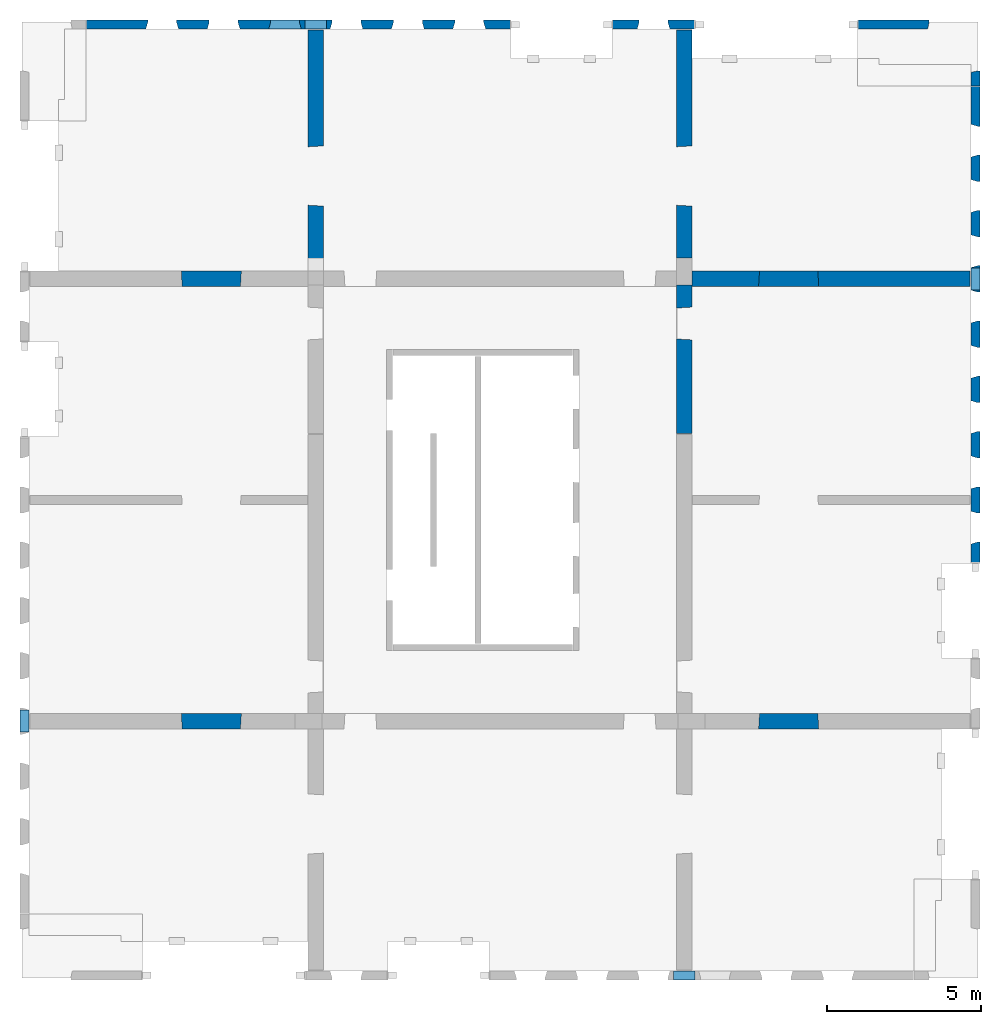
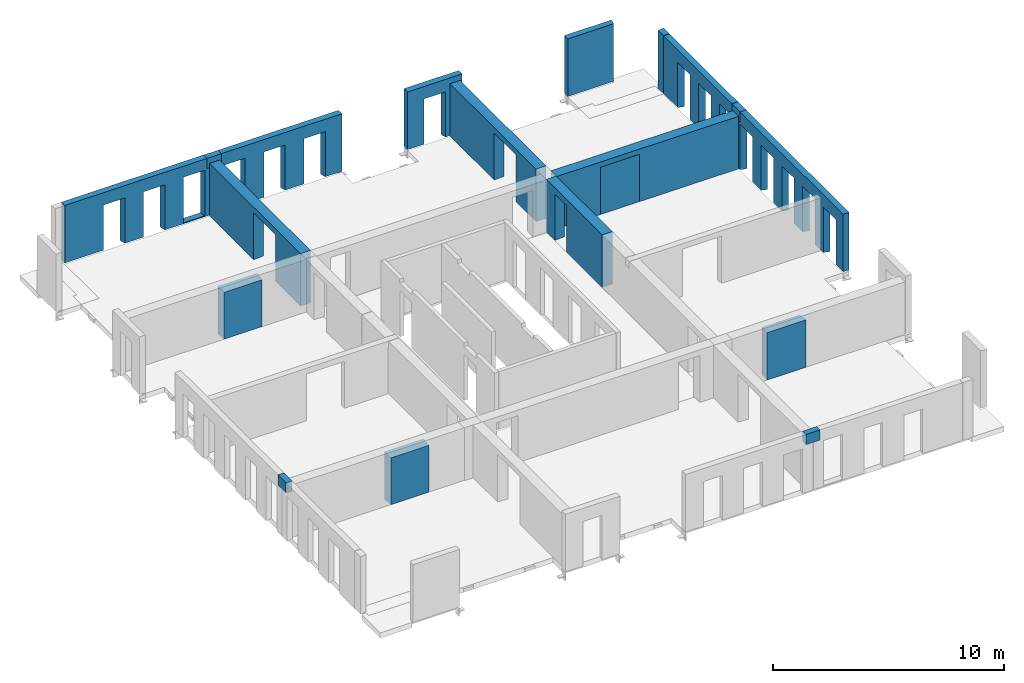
# One storey, part 4 of 4: 19 walls, 25 openings.
"""IFC2X3 building model written with IfcOpenShell, lengths in millimetres."""

from ifc_helpers import new_model, entity, si_unit, converted_unit, derived_unit, direction, frame, frame_2d, origin, place, context, subcontext, project, spatial, rectangle, extrude, faceted_brep, material, layer, layer_set, layer_usage, type_object, element, save


model = new_model("IFC2X3")

# Units and contexts
model_context = context("Model", 3, precision=0.01, world=origin(), true_north=direction((6.12303176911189e-17, 1.0)))
body_context = subcontext(model_context, "Body", "Model", "MODEL_VIEW")
ifc_project = project(units=[si_unit("LENGTHUNIT", "METRE", prefix="MILLI"), si_unit("AREAUNIT", "SQUARE_METRE"), si_unit("VOLUMEUNIT", "CUBIC_METRE"), converted_unit("PLANEANGLEUNIT", "DEGREE", entity("IfcRatioMeasure", 0.0174532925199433), si_unit("PLANEANGLEUNIT", "RADIAN"), dimensions=[0, 0, 0, 0, 0, 0, 0]), si_unit("MASSUNIT", "GRAM", prefix="KILO"), derived_unit("MASSDENSITYUNIT", [(si_unit("MASSUNIT", "GRAM", prefix="KILO"), 1), (si_unit("LENGTHUNIT", "METRE"), -3)]), si_unit("TIMEUNIT", "SECOND"), si_unit("FREQUENCYUNIT", "HERTZ"), si_unit("THERMODYNAMICTEMPERATUREUNIT", "DEGREE_CELSIUS"), derived_unit("THERMALTRANSMITTANCEUNIT", [(si_unit("MASSUNIT", "GRAM", prefix="KILO"), 1), (si_unit("THERMODYNAMICTEMPERATUREUNIT", "KELVIN"), -1), (si_unit("TIMEUNIT", "SECOND"), -3)]), derived_unit("VOLUMETRICFLOWRATEUNIT", [(si_unit("LENGTHUNIT", "METRE"), 3), (si_unit("TIMEUNIT", "SECOND"), -1)]), si_unit("ELECTRICCURRENTUNIT", "AMPERE"), si_unit("ELECTRICVOLTAGEUNIT", "VOLT"), si_unit("POWERUNIT", "WATT"), si_unit("FORCEUNIT", "NEWTON", prefix="KILO"), si_unit("ILLUMINANCEUNIT", "LUX"), si_unit("LUMINOUSFLUXUNIT", "LUMEN"), si_unit("LUMINOUSINTENSITYUNIT", "CANDELA"), derived_unit("USERDEFINED", [(si_unit("MASSUNIT", "GRAM", prefix="KILO"), -1), (si_unit("LENGTHUNIT", "METRE"), -2), (si_unit("TIMEUNIT", "SECOND"), 3), (si_unit("LUMINOUSFLUXUNIT", "LUMEN"), 1)]), derived_unit("LINEARVELOCITYUNIT", [(si_unit("LENGTHUNIT", "METRE"), 1), (si_unit("TIMEUNIT", "SECOND"), -1)]), si_unit("PRESSUREUNIT", "PASCAL"), derived_unit("USERDEFINED", [(si_unit("LENGTHUNIT", "METRE"), -2), (si_unit("MASSUNIT", "GRAM", prefix="KILO"), 1), (si_unit("TIMEUNIT", "SECOND"), -2)])], contexts=[model_context])

# Site, building, storey
site_placement = place(None, origin())
site = spatial("IfcSite", under=ifc_project, at=site_placement, Name="Default", CompositionType="ELEMENT")
building_placement = place(site_placement, origin())
building = spatial("IfcBuilding", under=site, at=building_placement, Name="niet gebruiken", CompositionType="ELEMENT")
storey_placement = place(building_placement, frame((0.0, 0.0, 51660.0)))
storey = spatial("IfcBuildingStorey", under=building, at=storey_placement, Name="16 zestiende verdieping", CompositionType="ELEMENT", Elevation=51660.0)

# Walls
ifc_material_1 = material(Name="NLRS_f2_beton ihwg")
ifc_layer_1 = layer(ifc_material_1, 300.0)
ifc_layer_set_1 = layer_set([ifc_layer_1], Name="Basic Wall:NLRS_21.21_WA_beton ihwg d=300_gen")
ifc_layer_usage_1 = layer_usage(ifc_layer_set_1, "AXIS2", "NEGATIVE", 150.0)
wall_type_1 = type_object("IfcWallType", Name="Basic Wall:NLRS_21.21_WA_beton ihwg d=300_gen", PredefinedType="STANDARD", material=ifc_layer_set_1)
wall_1_placement = place(storey_placement, frame((148105.0, 2020.0, 2455.0), z_axis=(0.0, 0.0, 1.0), x_axis=(-1.0, 0.0, 0.0)))
element("IfcWallStandardCase", 1, at=wall_1_placement, inside=storey, type_object=wall_type_1, material=ifc_layer_usage_1, Name="Basic Wall:NLRS_21.21_WA_beton ihwg d=300_gen", ObjectType="Basic Wall:NLRS_21.21_WA_beton ihwg d=300_gen", context=body_context, shape_type="SweptSolid", body=[
    extrude(rectangle(XDim=710.000000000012, YDim=300.0, at=frame_2d((355.000000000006, -1.4210854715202e-14), x_axis=(-1.0, 0.0))), origin(), (0.0, 0.0, 1.0), 535.0),
])
ifc_layer_usage_2 = layer_usage(ifc_layer_set_1, "AXIS2", "NEGATIVE", 150.0)
wall_2_placement = place(storey_placement, frame((135395.0, 32980.0, 2455.0)))
element("IfcWallStandardCase", 2, at=wall_2_placement, inside=storey, type_object=wall_type_1, material=ifc_layer_usage_2, Name="Basic Wall:NLRS_21.21_WA_beton ihwg d=300_gen", ObjectType="Basic Wall:NLRS_21.21_WA_beton ihwg d=300_gen", context=body_context, shape_type="SweptSolid", body=[
    extrude(rectangle(XDim=710.000000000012, YDim=300.000000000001, at=frame_2d((355.000000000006, 0.0), x_axis=(-1.0, 0.0))), origin(), (0.0, 0.0, 1.0), 535.0),
])
ifc_layer_usage_3 = layer_usage(ifc_layer_set_1, "AXIS2", "NEGATIVE", 150.0)
wall_3_placement = place(storey_placement, frame((157230.0, 25055.0, 2455.0), z_axis=(0.0, 0.0, 1.0), x_axis=(0.0, -1.0, 0.0)))
element("IfcWallStandardCase", 3, at=wall_3_placement, inside=storey, type_object=wall_type_1, material=ifc_layer_usage_3, Name="Basic Wall:NLRS_21.21_WA_beton ihwg d=300_gen", ObjectType="Basic Wall:NLRS_21.21_WA_beton ihwg d=300_gen", context=body_context, shape_type="SweptSolid", body=[
    extrude(rectangle(XDim=710.000000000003, YDim=300.000000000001, at=frame_2d((355.000000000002, 9.9475983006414e-13), x_axis=(-1.0, 0.0))), origin(), (0.0, 0.0, 1.0), 535.0),
])
ifc_layer_usage_4 = layer_usage(ifc_layer_set_1, "AXIS2", "NEGATIVE", 150.0)
wall_4_placement = place(storey_placement, frame((126270.0, 9945.0, 2455.0), z_axis=(0.0, 0.0, 1.0), x_axis=(0.0, 1.0, 0.0)))
element("IfcWallStandardCase", 4, at=wall_4_placement, inside=storey, type_object=wall_type_1, material=ifc_layer_usage_4, Name="Basic Wall:NLRS_21.21_WA_beton ihwg d=300_gen", ObjectType="Basic Wall:NLRS_21.21_WA_beton ihwg d=300_gen", context=body_context, shape_type="SweptSolid", body=[
    extrude(rectangle(XDim=710.000000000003, YDim=300.000000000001, at=frame_2d((355.000000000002, 0.0), x_axis=(-1.0, 0.0))), origin(), (0.0, 0.0, 1.0), 535.0),
])

# Wall, opening
ifc_material_2 = material(Name="NLRS_f2_beton prefab")
ifc_layer_2 = layer(ifc_material_2, 500.0)
ifc_layer_set_2 = layer_set([ifc_layer_2], Name="Basic Wall:NLRS_22.21_WA_beton prefab d=500_gen")
ifc_layer_usage_5 = layer_usage(ifc_layer_set_2, "AXIS2", "NEGATIVE", 250.0)
wall_type_2 = type_object("IfcWallType", Name="Basic Wall:NLRS_22.21_WA_beton prefab d=500_gen", PredefinedType="STANDARD", material=ifc_layer_set_2)
wall_5_placement = place(storey_placement, frame((157060.0, 24700.0, -70.0), z_axis=(0.0, 0.0, 1.0), x_axis=(-1.0, 0.0, 0.0)))
wall_5 = element("IfcWallStandardCase", 5, at=wall_5_placement, inside=storey, type_object=wall_type_2, material=ifc_layer_usage_5, Name="Basic Wall:NLRS_22.21_WA_beton prefab d=500_gen", ObjectType="Basic Wall:NLRS_22.21_WA_beton prefab d=500_gen", context=body_context, shape_type="SweptSolid", body=[
    extrude(rectangle(XDim=9060.00000000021, YDim=499.999999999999, at=frame_2d((4530.00000000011, -1.37845290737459e-12), x_axis=(-1.0, 0.0))), origin(), (0.0, 0.0, 1.0), 2769.99999999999),
])
opening_1_placement = place(wall_5_placement, frame((6890.0, 250.0, 0.0)))
element("IfcOpeningElement", 6, at=opening_1_placement, cuts=wall_5, Name="Basic Wall:NLRS_22.21_WA_beton prefab d=500_gen", ObjectType="Opening", context=body_context, shape_type="Brep", body=[
    faceted_brep([(-30.0, -500.0, 2470.0), (-1930.0, -500.0, 2470.0), (-1930.0, -500.0, 0.0), (-30.0, -500.0, 0.0), (0.0, 0.0, 2500.0), (0.0, 0.0, 0.0), (-1960.0, 0.0, 0.0), (-1960.0, 0.0, 2500.0)], [[[0, 1, 2, 3]], [[4, 5, 6, 7]], [[4, 7, 1, 0]], [[7, 6, 2, 1]], [[6, 5, 3, 2]], [[5, 4, 0, 3]]]),
])

ifc_layer_usage_6 = layer_usage(ifc_layer_set_2, "AXIS2", "NEGATIVE", 250.0)
wall_6_placement = place(storey_placement, frame((135750.0, 24950.0, -70.0), z_axis=(0.0, 0.0, 1.0), x_axis=(0.0, 1.0, 0.0)))
wall_6 = element("IfcWallStandardCase", 7, at=wall_6_placement, inside=storey, type_object=wall_type_2, material=ifc_layer_usage_6, Name="Basic Wall:NLRS_22.21_WA_beton prefab d=500_gen", ObjectType="Basic Wall:NLRS_22.21_WA_beton prefab d=500_gen", context=body_context, shape_type="SweptSolid", body=[
    extrude(rectangle(XDim=7859.99999999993, YDim=499.99999999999, at=frame_2d((3929.99999999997, -2.8563817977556e-12), x_axis=(-1.0, 0.0))), origin(), (0.0, 0.0, 1.0), 2769.99999999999),
])
opening_2_placement = place(wall_6_placement, frame((2120.0, 250.0, 0.0)))
element("IfcOpeningElement", 8, at=opening_2_placement, cuts=wall_6, Name="Basic Wall:NLRS_22.21_WA_beton prefab d=500_gen", ObjectType="Opening", context=body_context, shape_type="Brep", body=[
    faceted_brep([(1930.0, 0.0, 2470.0), (1930.0, 0.0, 0.0), (30.0, 0.0, 0.0), (30.0, 0.0, 2470.0), (1960.0, -500.0, 2500.0), (0.0, -500.0, 2500.0), (0.0, -500.0, 0.0), (1960.0, -500.0, 0.0)], [[[0, 1, 2, 3]], [[4, 5, 6, 7]], [[4, 0, 3, 5]], [[5, 3, 2, 6]], [[6, 2, 1, 7]], [[7, 1, 0, 4]]]),
])

ifc_layer_usage_7 = layer_usage(ifc_layer_set_2, "AXIS2", "NEGATIVE", 250.0)
wall_7_placement = place(storey_placement, frame((147750.0, 25380.0, -70.0), z_axis=(0.0, 0.0, 1.0), x_axis=(0.0, 1.0, 0.0)))
wall_7 = element("IfcWallStandardCase", 9, at=wall_7_placement, inside=storey, type_object=wall_type_2, material=ifc_layer_usage_7, Name="Basic Wall:NLRS_22.21_WA_beton prefab d=500_gen", ObjectType="Basic Wall:NLRS_22.21_WA_beton prefab d=500_gen", context=body_context, shape_type="SweptSolid", body=[
    extrude(rectangle(XDim=7429.99999999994, YDim=499.99999999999, at=frame_2d((3714.99999999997, 1.70530256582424e-12), x_axis=(-1.0, 0.0))), origin(), (0.0, 0.0, 1.0), 2769.99999999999),
])
opening_3_placement = place(wall_7_placement, frame((1690.0, 250.0, 0.0)))
element("IfcOpeningElement", 10, at=opening_3_placement, cuts=wall_7, Name="Basic Wall:NLRS_22.21_WA_beton prefab d=500_gen", ObjectType="Opening", context=body_context, shape_type="Brep", body=[
    faceted_brep([(1930.0, 0.0, 2470.0), (1930.0, 0.0, 0.0), (30.0, 0.0, 0.0), (30.0, 0.0, 2470.0), (1960.0, -500.0, 2500.0), (0.0, -500.0, 2500.0), (0.0, -500.0, 0.0), (1960.0, -500.0, 0.0)], [[[0, 1, 2, 3]], [[4, 5, 6, 7]], [[4, 0, 3, 5]], [[5, 3, 2, 6]], [[6, 2, 1, 7]], [[7, 1, 0, 4]]]),
])

ifc_layer_usage_8 = layer_usage(ifc_layer_set_2, "AXIS2", "NEGATIVE", 250.0)
wall_8_placement = place(storey_placement, frame((147750.0, 24500.0, -70.0), z_axis=(0.0, 0.0, 1.0), x_axis=(0.0, -1.0, 0.0)))
wall_8 = element("IfcWallStandardCase", 11, at=wall_8_placement, inside=storey, type_object=wall_type_2, material=ifc_layer_usage_8, Name="Basic Wall:NLRS_22.21_WA_beton prefab d=500_gen", ObjectType="Basic Wall:NLRS_22.21_WA_beton prefab d=500_gen", context=body_context, shape_type="SweptSolid", body=[
    extrude(rectangle(XDim=4840.00000000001, YDim=499.99999999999, at=frame_2d((2420.00000000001, 0.0), x_axis=(-1.0, 0.0))), origin(), (0.0, 0.0, 1.0), 2769.99999999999),
])
opening_4_placement = place(wall_8_placement, frame((1786.0, -250.0, 0.0)))
element("IfcOpeningElement", 12, at=opening_4_placement, cuts=wall_8, Name="Basic Wall:NLRS_22.21_WA_beton prefab d=500_gen", ObjectType="Opening", context=body_context, shape_type="Brep", body=[
    faceted_brep([(-1066.0, 500.0, 2478.0), (-1066.0, 500.0, 0.0), (-1036.0, 0.0, 0.0), (-1036.0, 0.0, 2448.0), (0.0, 500.0, 0.0), (-30.0, 0.0, 0.0), (-30.0, 0.0, 2448.0), (0.0, 500.0, 2478.0)], [[[0, 1, 2, 3]], [[1, 4, 5, 2]], [[6, 3, 2, 5]], [[7, 4, 1, 0]], [[7, 0, 3, 6]], [[4, 7, 6, 5]]]),
])

ifc_layer_3 = layer(ifc_material_2, 300.0)
ifc_layer_set_3 = layer_set([ifc_layer_3], Name="Basic Wall:NLRS_21.21_WA_beton prefab d=300/320_gen")
ifc_layer_usage_9 = layer_usage(ifc_layer_set_3, "AXIS2", "NEGATIVE", 150.0)
wall_type_3 = type_object("IfcWallType", Name="Basic Wall:NLRS_21.21_WA_beton prefab d=300/320_gen", PredefinedType="STANDARD", material=ifc_layer_set_3)
wall_9_placement = place(storey_placement, frame((145390.0, 32980.0, -50.0)))
wall_9 = element("IfcWallStandardCase", 13, at=wall_9_placement, inside=storey, type_object=wall_type_3, material=ifc_layer_usage_9, Name="Basic Wall:NLRS_21.21_WA_beton prefab d=300/320_gen", ObjectType="Basic Wall:NLRS_21.21_WA_beton prefab d=300/320_gen", context=body_context, shape_type="SweptSolid", body=[
    extrude(rectangle(XDim=2720.00000000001, YDim=300.000000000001, at=frame_2d((1360.0, -4.54747350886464e-13), x_axis=(-1.0, 0.0))), origin(), (0.0, 0.0, 1.0), 3040.0),
])
opening_5_placement = place(wall_9_placement, frame((825.0, -150.0, -20.0)))
element("IfcOpeningElement", 14, at=opening_5_placement, cuts=wall_9, Name="Basic Wall:NLRS_21.21_WA_beton prefab d=300/320_gen", ObjectType="Opening", context=body_context, shape_type="Brep", body=[
    faceted_brep([(0.0, 0.0, 2405.0), (0.0, 0.0, 0.0), (1070.0, 0.0, 0.0), (1070.0, 0.0, 2405.0), (1005.0, 219.0, 2370.0), (65.0, 219.0, 2370.0), (1005.0, 219.0, 0.0), (65.0, 219.0, 0.0), (65.0, 300.0, 0.0), (1005.0, 300.0, 0.0), (65.0, 300.0, 2370.0), (1005.0, 300.0, 2370.0)], [[[0, 1, 2, 3]], [[3, 4, 5, 0]], [[2, 6, 4, 3]], [[1, 7, 8, 9, 6, 2]], [[0, 5, 7, 1]], [[10, 11, 9, 8]], [[10, 5, 4, 11]], [[11, 4, 6, 9]], [[8, 7, 5, 10]]]),
])

# Wall, openings
ifc_layer_usage_10 = layer_usage(ifc_layer_set_3, "AXIS2", "NEGATIVE", 150.0)
wall_10_placement = place(storey_placement, frame((128290.0, 32980.0, -50.0)))
wall_10 = element("IfcWallStandardCase", 15, at=wall_10_placement, inside=storey, type_object=wall_type_3, material=ifc_layer_usage_10, Name="Basic Wall:NLRS_21.21_WA_beton prefab d=300/320_gen", ObjectType="Basic Wall:NLRS_21.21_WA_beton prefab d=300/320_gen", context=body_context, shape_type="SweptSolid", body=[
    extrude(rectangle(XDim=7449.9999999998, YDim=300.000000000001, at=frame_2d((3724.9999999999, 0.0), x_axis=(-1.0, 0.0))), origin(), (0.0, 0.0, 1.0), 3040.0),
])
opening_6_placement = place(wall_10_placement, frame((3925.0, -150.0, -20.0)))
element("IfcOpeningElement", 16, at=opening_6_placement, cuts=wall_10, Name="Basic Wall:NLRS_21.21_WA_beton prefab d=300/320_gen", ObjectType="Opening", context=body_context, shape_type="Brep", body=[
    faceted_brep([(1070.0, 0.0, 2405.0), (0.0, 0.0, 2405.0), (0.0, 0.0, 0.0), (1070.0, 0.0, 0.0), (1005.0, 219.0, 2370.0), (65.0, 219.0, 2370.0), (65.0, 219.0, 0.0), (65.0, 300.0, 0.0), (1005.0, 300.0, 0.0), (1005.0, 219.0, 0.0), (1005.0, 300.0, 2370.0), (65.0, 300.0, 2370.0)], [[[0, 1, 2, 3]], [[1, 0, 4, 5]], [[2, 1, 5, 6]], [[3, 2, 6, 7, 8, 9]], [[0, 3, 9, 4]], [[10, 8, 7, 11]], [[10, 11, 5, 4]], [[11, 7, 6, 5]], [[8, 10, 4, 9]]]),
])
opening_7_placement = place(wall_10_placement, frame((1925.0, -150.0, -20.0)))
element("IfcOpeningElement", 17, at=opening_7_placement, cuts=wall_10, Name="Basic Wall:NLRS_21.21_WA_beton prefab d=300/320_gen", ObjectType="Opening", context=body_context, shape_type="Brep", body=[
    faceted_brep([(1070.0, 0.0, 2405.0), (0.0, 0.0, 2405.0), (0.0, 0.0, 0.0), (1070.0, 0.0, 0.0), (1005.0, 219.0, 2370.0), (65.0, 219.0, 2370.0), (65.0, 219.0, 0.0), (65.0, 300.0, 0.0), (1005.0, 300.0, 0.0), (1005.0, 219.0, 0.0), (1005.0, 300.0, 2370.0), (65.0, 300.0, 2370.0)], [[[0, 1, 2, 3]], [[1, 0, 4, 5]], [[2, 1, 5, 6]], [[3, 2, 6, 7, 8, 9]], [[0, 3, 9, 4]], [[10, 8, 7, 11]], [[10, 11, 5, 4]], [[11, 7, 6, 5]], [[8, 10, 4, 9]]]),
])
opening_8_placement = place(wall_10_placement, frame((5925.0, -150.0, 50.0)))
element("IfcOpeningElement", 18, at=opening_8_placement, cuts=wall_10, Name="Basic Wall:NLRS_21.21_WA_beton prefab d=300/320_gen", ObjectType="Opening", context=body_context, shape_type="Brep", body=[
    faceted_brep([(1070.0, 0.0, 2405.0), (0.0, 0.0, 2405.0), (0.0, 0.0, 0.0), (1070.0, 0.0, 0.0), (1005.0, 219.0, 2370.0), (65.0, 219.0, 2370.0), (65.0, 219.0, 0.0), (65.0, 300.0, 0.0), (1005.0, 300.0, 0.0), (1005.0, 219.0, 0.0), (1005.0, 300.0, 2370.0), (65.0, 300.0, 2370.0)], [[[0, 1, 2, 3]], [[1, 0, 4, 5]], [[2, 1, 5, 6]], [[3, 2, 6, 7, 8, 9]], [[0, 3, 9, 4]], [[10, 8, 7, 11]], [[10, 11, 5, 4]], [[11, 7, 6, 5]], [[8, 10, 4, 9]]]),
])
opening_9_placement = place(wall_10_placement, origin())
element("IfcOpeningElement", 19, at=opening_9_placement, cuts=wall_10, Name="Basic Wall:NLRS_21.21_WA_beton prefab d=300/320_gen", ObjectType="Opening", context=body_context, shape_type="SweptSolid", body=[
    extrude(rectangle(XDim=534.999999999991, YDim=344.999999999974, at=frame_2d((-4.32009983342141e-12, 0.0), x_axis=(1.0, 0.0))), frame((7277.49999999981, 150.0, 2772.50000000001), z_axis=(0.0, -1.0, 0.0), x_axis=(0.0, 0.0, 1.0)), (0.0, 0.0, 1.0), 300.0),
])

ifc_layer_usage_11 = layer_usage(ifc_layer_set_3, "AXIS2", "NEGATIVE", 150.0)
wall_11_placement = place(storey_placement, frame((157230.0, 30960.0, -50.0), z_axis=(0.0, 0.0, 1.0), x_axis=(0.0, -1.0, 0.0)))
wall_11 = element("IfcWallStandardCase", 20, at=wall_11_placement, inside=storey, type_object=wall_type_3, material=ifc_layer_usage_11, Name="Basic Wall:NLRS_21.21_WA_beton prefab d=300/320_gen", ObjectType="Basic Wall:NLRS_21.21_WA_beton prefab d=300/320_gen", context=body_context, shape_type="SweptSolid", body=[
    extrude(rectangle(XDim=6249.99999999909, YDim=300.000000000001, at=frame_2d((3124.99999999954, -8.61177795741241e-12), x_axis=(-1.0, 0.0))), origin(), (0.0, 0.0, 1.0), 3039.99999999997),
])
opening_10_placement = place(wall_11_placement, frame((2295.0, -150.0, -20.0)))
element("IfcOpeningElement", 21, at=opening_10_placement, cuts=wall_11, Name="Basic Wall:NLRS_21.21_WA_beton prefab d=300/320_gen", ObjectType="Opening", context=body_context, shape_type="Brep", body=[
    faceted_brep([(-1070.0, 0.0, 2405.0), (-1070.0, 0.0, 0.0), (0.0, 0.0, 0.0), (0.0, 0.0, 2405.0), (-65.0, 219.0, 2370.0), (-1005.0, 219.0, 2370.0), (-65.0, 219.0, 0.0), (-1005.0, 219.0, 0.0), (-1005.0, 300.0, 0.0), (-65.0, 300.0, 0.0), (-1005.0, 300.0, 2370.0), (-65.0, 300.0, 2370.0)], [[[0, 1, 2, 3]], [[3, 4, 5, 0]], [[2, 6, 4, 3]], [[1, 7, 8, 9, 6, 2]], [[0, 5, 7, 1]], [[10, 11, 9, 8]], [[10, 5, 4, 11]], [[11, 4, 6, 9]], [[8, 7, 5, 10]]]),
])
opening_11_placement = place(wall_11_placement, frame((4095.0, -150.0, -20.0)))
element("IfcOpeningElement", 22, at=opening_11_placement, cuts=wall_11, Name="Basic Wall:NLRS_21.21_WA_beton prefab d=300/320_gen", ObjectType="Opening", context=body_context, shape_type="Brep", body=[
    faceted_brep([(-1070.0, 0.0, 2405.0), (-1070.0, 0.0, 0.0), (0.0, 0.0, 0.0), (0.0, 0.0, 2405.0), (-65.0, 219.0, 2370.0), (-1005.0, 219.0, 2370.0), (-65.0, 219.0, 0.0), (-1005.0, 219.0, 0.0), (-1005.0, 300.0, 0.0), (-65.0, 300.0, 0.0), (-1005.0, 300.0, 2370.0), (-65.0, 300.0, 2370.0)], [[[0, 1, 2, 3]], [[3, 4, 5, 0]], [[2, 6, 4, 3]], [[1, 7, 8, 9, 6, 2]], [[0, 5, 7, 1]], [[10, 11, 9, 8]], [[10, 5, 4, 11]], [[11, 4, 6, 9]], [[8, 7, 5, 10]]]),
])
opening_12_placement = place(wall_11_placement, frame((5895.0, -150.0, -20.0)))
element("IfcOpeningElement", 23, at=opening_12_placement, cuts=wall_11, Name="Basic Wall:NLRS_21.21_WA_beton prefab d=300/320_gen", ObjectType="Opening", context=body_context, shape_type="Brep", body=[
    faceted_brep([(-1070.0, 0.0, 2405.0), (-1070.0, 0.0, 0.0), (0.0, 0.0, 0.0), (0.0, 0.0, 2405.0), (-65.0, 219.0, 2370.0), (-1005.0, 219.0, 2370.0), (-65.0, 219.0, 0.0), (-1005.0, 219.0, 0.0), (-1005.0, 300.0, 0.0), (-65.0, 300.0, 0.0), (-1005.0, 300.0, 2370.0), (-65.0, 300.0, 2370.0)], [[[0, 1, 2, 3]], [[3, 4, 5, 0]], [[2, 6, 4, 3]], [[1, 7, 8, 9, 6, 2]], [[0, 5, 7, 1]], [[10, 11, 9, 8]], [[10, 5, 4, 11]], [[11, 4, 6, 9]], [[8, 7, 5, 10]]]),
])
opening_13_placement = place(wall_11_placement, origin())
element("IfcOpeningElement", 24, at=opening_13_placement, cuts=wall_11, Name="Basic Wall:NLRS_21.21_WA_beton prefab d=300/320_gen", ObjectType="Opening", context=body_context, shape_type="SweptSolid", body=[
    extrude(rectangle(XDim=534.99999999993, YDim=344.999999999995, at=frame_2d((0.0, -2.17426077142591e-12), x_axis=(1.0, 0.0))), frame((6077.49999999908, 150.0, 2772.5), z_axis=(0.0, -1.0, 0.0), x_axis=(0.0, 0.0, 1.0)), (0.0, 0.0, 1.0), 300.0),
])

# Wall, opening
ifc_layer_usage_12 = layer_usage(ifc_layer_set_3, "AXIS2", "NEGATIVE", 150.0)
wall_12_placement = place(storey_placement, frame((153390.0, 32980.0, -50.0)))
wall_12 = element("IfcWallStandardCase", 25, at=wall_12_placement, inside=storey, type_object=wall_type_3, material=ifc_layer_usage_12, Name="Basic Wall:NLRS_21.21_WA_beton prefab d=300/320_gen", ObjectType="Basic Wall:NLRS_21.21_WA_beton prefab d=300/320_gen", context=body_context, shape_type="SweptSolid", body=[
    extrude(rectangle(XDim=2330.00000000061, YDim=300.000000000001, at=frame_2d((1165.00000000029, -1.29318777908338e-12), x_axis=(-1.0, 0.0))), origin(), (0.0, 0.0, 1.0), 3040.0),
])
opening_14_placement = place(wall_12_placement, frame((2265.0, -250.0, 0.0)))
element("IfcOpeningElement", 26, at=opening_14_placement, cuts=wall_12, Name="Basic Wall:NLRS_21.21_WA_beton prefab d=300/320_gen", ObjectType="Opening", context=body_context, shape_type="Brep", body=[
    faceted_brep([(65.0, 0.0, 3040.0), (65.0, 319.0, 3040.0), (0.0, 0.0, 3040.0), (65.0, 0.0, 0.0), (0.0, 0.0, 0.0), (65.0, 319.0, 0.0)], [[[0, 1, 2]], [[3, 4, 5]], [[2, 4, 3, 0]], [[0, 3, 5, 1]], [[1, 5, 4, 2]]]),
])

ifc_layer_usage_13 = layer_usage(ifc_layer_set_3, "AXIS2", "NEGATIVE", 150.0)
wall_13_placement = place(storey_placement, frame((157230.0, 31470.0, -50.0), z_axis=(0.0, 0.0, 1.0), x_axis=(0.0, -1.0, 0.0)))
wall_13 = element("IfcWallStandardCase", 27, at=wall_13_placement, inside=storey, type_object=wall_type_3, material=ifc_layer_usage_13, Name="Basic Wall:NLRS_21.21_WA_beton prefab d=300/320_gen", ObjectType="Basic Wall:NLRS_21.21_WA_beton prefab d=300/320_gen", context=body_context, shape_type="SweptSolid", body=[
    extrude(rectangle(XDim=489.999999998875, YDim=300.000000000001, at=frame_2d((244.999999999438, -7.8159700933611e-13), x_axis=(-1.0, 0.0))), origin(), (0.0, 0.0, 1.0), 3040.0),
])
opening_15_placement = place(wall_13_placement, frame((65.0, -250.0, 0.0)))
element("IfcOpeningElement", 28, at=opening_15_placement, cuts=wall_13, Name="Basic Wall:NLRS_21.21_WA_beton prefab d=300/320_gen", ObjectType="Opening", context=body_context, shape_type="Brep", body=[
    faceted_brep([(-65.0, 0.0, 3040.0), (0.0, 0.0, 3040.0), (-65.0, 319.0, 3040.0), (-65.0, 0.0, 0.0), (-65.0, 319.0, 0.0), (0.0, 0.0, 0.0)], [[[0, 1, 2]], [[3, 4, 5]], [[1, 0, 3, 5]], [[0, 2, 4, 3]], [[2, 1, 5, 4]]]),
])

# Wall, openings
ifc_layer_usage_14 = layer_usage(ifc_layer_set_3, "AXIS2", "NEGATIVE", 150.0)
wall_14_placement = place(storey_placement, frame((157230.0, 24690.0, -50.0), z_axis=(0.0, 0.0, 1.0), x_axis=(0.0, -1.0, 0.0)))
wall_14 = element("IfcWallStandardCase", 29, at=wall_14_placement, inside=storey, type_object=wall_type_3, material=ifc_layer_usage_14, Name="Basic Wall:NLRS_21.21_WA_beton prefab d=300/320_gen", ObjectType="Basic Wall:NLRS_21.21_WA_beton prefab d=300/320_gen", context=body_context, shape_type="SweptSolid", body=[
    extrude(rectangle(XDim=9250.00000000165, YDim=300.000000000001, at=frame_2d((4625.00000000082, -4.43378667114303e-12), x_axis=(-1.0, 0.0))), origin(), (0.0, 0.0, 1.0), 3040.0),
])
opening_16_placement = place(wall_14_placement, frame((8625.0, -150.0, -20.0)))
element("IfcOpeningElement", 30, at=opening_16_placement, cuts=wall_14, Name="Basic Wall:NLRS_21.21_WA_beton prefab d=300/320_gen", ObjectType="Opening", context=body_context, shape_type="Brep", body=[
    faceted_brep([(-1070.0, 0.0, 2405.0), (-1070.0, 0.0, 0.0), (0.0, 0.0, 0.0), (0.0, 0.0, 2405.0), (-65.0, 219.0, 2370.0), (-1005.0, 219.0, 2370.0), (-65.0, 219.0, 0.0), (-1005.0, 219.0, 0.0), (-1005.0, 300.0, 0.0), (-65.0, 300.0, 0.0), (-1005.0, 300.0, 2370.0), (-65.0, 300.0, 2370.0)], [[[0, 1, 2, 3]], [[3, 4, 5, 0]], [[2, 6, 4, 3]], [[1, 7, 8, 9, 6, 2]], [[0, 5, 7, 1]], [[10, 11, 9, 8]], [[10, 5, 4, 11]], [[11, 4, 6, 9]], [[8, 7, 5, 10]]]),
])
opening_17_placement = place(wall_14_placement, frame((5025.0, -150.0, -20.0)))
element("IfcOpeningElement", 31, at=opening_17_placement, cuts=wall_14, Name="Basic Wall:NLRS_21.21_WA_beton prefab d=300/320_gen", ObjectType="Opening", context=body_context, shape_type="Brep", body=[
    faceted_brep([(-1070.0, 0.0, 2405.0), (-1070.0, 0.0, 0.0), (0.0, 0.0, 0.0), (0.0, 0.0, 2405.0), (-65.0, 219.0, 2370.0), (-1005.0, 219.0, 2370.0), (-65.0, 219.0, 0.0), (-1005.0, 219.0, 0.0), (-1005.0, 300.0, 0.0), (-65.0, 300.0, 0.0), (-1005.0, 300.0, 2370.0), (-65.0, 300.0, 2370.0)], [[[0, 1, 2, 3]], [[3, 4, 5, 0]], [[2, 6, 4, 3]], [[1, 7, 8, 9, 6, 2]], [[0, 5, 7, 1]], [[10, 11, 9, 8]], [[10, 5, 4, 11]], [[11, 4, 6, 9]], [[8, 7, 5, 10]]]),
])
opening_18_placement = place(wall_14_placement, frame((3225.0, -150.0, -20.0)))
element("IfcOpeningElement", 32, at=opening_18_placement, cuts=wall_14, Name="Basic Wall:NLRS_21.21_WA_beton prefab d=300/320_gen", ObjectType="Opening", context=body_context, shape_type="Brep", body=[
    faceted_brep([(-1070.0, 0.0, 2405.0), (-1070.0, 0.0, 0.0), (0.0, 0.0, 0.0), (0.0, 0.0, 2405.0), (-65.0, 219.0, 2370.0), (-1005.0, 219.0, 2370.0), (-65.0, 219.0, 0.0), (-1005.0, 219.0, 0.0), (-1005.0, 300.0, 0.0), (-65.0, 300.0, 0.0), (-1005.0, 300.0, 2370.0), (-65.0, 300.0, 2370.0)], [[[0, 1, 2, 3]], [[3, 4, 5, 0]], [[2, 6, 4, 3]], [[1, 7, 8, 9, 6, 2]], [[0, 5, 7, 1]], [[10, 11, 9, 8]], [[10, 5, 4, 11]], [[11, 4, 6, 9]], [[8, 7, 5, 10]]]),
])
opening_19_placement = place(wall_14_placement, frame((6825.0, -150.0, -20.0)))
element("IfcOpeningElement", 33, at=opening_19_placement, cuts=wall_14, Name="Basic Wall:NLRS_21.21_WA_beton prefab d=300/320_gen", ObjectType="Opening", context=body_context, shape_type="Brep", body=[
    faceted_brep([(-1070.0, 0.0, 2405.0), (-1070.0, 0.0, 0.0), (0.0, 0.0, 0.0), (0.0, 0.0, 2405.0), (-65.0, 219.0, 2370.0), (-1005.0, 219.0, 2370.0), (-65.0, 219.0, 0.0), (-1005.0, 219.0, 0.0), (-1005.0, 300.0, 0.0), (-65.0, 300.0, 0.0), (-1005.0, 300.0, 2370.0), (-65.0, 300.0, 2370.0)], [[[0, 1, 2, 3]], [[3, 4, 5, 0]], [[2, 6, 4, 3]], [[1, 7, 8, 9, 6, 2]], [[0, 5, 7, 1]], [[10, 11, 9, 8]], [[10, 5, 4, 11]], [[11, 4, 6, 9]], [[8, 7, 5, 10]]]),
])
opening_20_placement = place(wall_14_placement, frame((1425.0, -150.0, -20.0)))
element("IfcOpeningElement", 34, at=opening_20_placement, cuts=wall_14, Name="Basic Wall:NLRS_21.21_WA_beton prefab d=300/320_gen", ObjectType="Opening", context=body_context, shape_type="Brep", body=[
    faceted_brep([(0.0, 0.0, 2405.0), (-1070.0, 0.0, 2405.0), (-1070.0, 0.0, 0.0), (0.0, 0.0, 0.0), (-65.0, 219.0, 2370.0), (-1005.0, 219.0, 2370.0), (-1005.0, 219.0, 0.0), (-1005.0, 300.0, 0.0), (-65.0, 300.0, 0.0), (-65.0, 219.0, 0.0), (-65.0, 300.0, 2370.0), (-1005.0, 300.0, 2370.0)], [[[0, 1, 2, 3]], [[1, 0, 4, 5]], [[2, 1, 5, 6]], [[3, 2, 6, 7, 8, 9]], [[0, 3, 9, 4]], [[10, 8, 7, 11]], [[10, 11, 5, 4]], [[11, 7, 6, 5]], [[8, 10, 4, 9]]]),
])
opening_21_placement = place(wall_14_placement, origin())
element("IfcOpeningElement", 35, at=opening_21_placement, cuts=wall_14, Name="Basic Wall:NLRS_21.21_WA_beton prefab d=300/320_gen", ObjectType="Opening", context=body_context, shape_type="SweptSolid", body=[
    extrude(rectangle(XDim=534.999999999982, YDim=345.000000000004, at=frame_2d((-2.1600499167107e-12, -8.66862137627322e-12), x_axis=(0.0, 1.0))), frame((172.5, 150.0, 2772.5), z_axis=(0.0, -1.0, 0.0), x_axis=(-1.0, 0.0, 0.0)), (0.0, 0.0, 1.0), 300.0),
])

ifc_layer_usage_15 = layer_usage(ifc_layer_set_3, "AXIS2", "NEGATIVE", 150.0)
wall_15_placement = place(storey_placement, frame((135760.0, 32980.0, -50.0)))
wall_15 = element("IfcWallStandardCase", 36, at=wall_15_placement, inside=storey, type_object=wall_type_3, material=ifc_layer_usage_15, Name="Basic Wall:NLRS_21.21_WA_beton prefab d=300/320_gen", ObjectType="Basic Wall:NLRS_21.21_WA_beton prefab d=300/320_gen", context=body_context, shape_type="SweptSolid", body=[
    extrude(rectangle(XDim=6350.00000000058, YDim=300.000000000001, at=frame_2d((3175.00000000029, 0.0), x_axis=(-1.0, 0.0))), origin(), (0.0, 0.0, 1.0), 3040.0),
])
opening_22_placement = place(wall_15_placement, frame((455.0, -150.0, -20.0)))
element("IfcOpeningElement", 37, at=opening_22_placement, cuts=wall_15, Name="Basic Wall:NLRS_21.21_WA_beton prefab d=300/320_gen", ObjectType="Opening", context=body_context, shape_type="Brep", body=[
    faceted_brep([(1070.0, 0.0, 2405.0), (0.0, 0.0, 2405.0), (0.0, 0.0, 0.0), (1070.0, 0.0, 0.0), (1005.0, 219.0, 2370.0), (65.0, 219.0, 2370.0), (65.0, 219.0, 0.0), (65.0, 300.0, 0.0), (1005.0, 300.0, 0.0), (1005.0, 219.0, 0.0), (1005.0, 300.0, 2370.0), (65.0, 300.0, 2370.0)], [[[0, 1, 2, 3]], [[1, 0, 4, 5]], [[2, 1, 5, 6]], [[3, 2, 6, 7, 8, 9]], [[0, 3, 9, 4]], [[10, 8, 7, 11]], [[10, 11, 5, 4]], [[11, 7, 6, 5]], [[8, 10, 4, 9]]]),
])
opening_23_placement = place(wall_15_placement, frame((2455.0, -150.0, -20.0)))
element("IfcOpeningElement", 38, at=opening_23_placement, cuts=wall_15, Name="Basic Wall:NLRS_21.21_WA_beton prefab d=300/320_gen", ObjectType="Opening", context=body_context, shape_type="Brep", body=[
    faceted_brep([(1070.0, 0.0, 2405.0), (0.0, 0.0, 2405.0), (0.0, 0.0, 0.0), (1070.0, 0.0, 0.0), (1005.0, 219.0, 2370.0), (65.0, 219.0, 2370.0), (65.0, 219.0, 0.0), (65.0, 300.0, 0.0), (1005.0, 300.0, 0.0), (1005.0, 219.0, 0.0), (1005.0, 300.0, 2370.0), (65.0, 300.0, 2370.0)], [[[0, 1, 2, 3]], [[1, 0, 4, 5]], [[2, 1, 5, 6]], [[3, 2, 6, 7, 8, 9]], [[0, 3, 9, 4]], [[10, 8, 7, 11]], [[10, 11, 5, 4]], [[11, 7, 6, 5]], [[8, 10, 4, 9]]]),
])
opening_24_placement = place(wall_15_placement, frame((4455.0, -150.0, -20.0)))
element("IfcOpeningElement", 39, at=opening_24_placement, cuts=wall_15, Name="Basic Wall:NLRS_21.21_WA_beton prefab d=300/320_gen", ObjectType="Opening", context=body_context, shape_type="Brep", body=[
    faceted_brep([(1070.0, 0.0, 2405.0), (0.0, 0.0, 2405.0), (0.0, 0.0, 0.0), (1070.0, 0.0, 0.0), (1005.0, 219.0, 2370.0), (65.0, 219.0, 2370.0), (65.0, 219.0, 0.0), (65.0, 300.0, 0.0), (1005.0, 300.0, 0.0), (1005.0, 219.0, 0.0), (1005.0, 300.0, 2370.0), (65.0, 300.0, 2370.0)], [[[0, 1, 2, 3]], [[1, 0, 4, 5]], [[2, 1, 5, 6]], [[3, 2, 6, 7, 8, 9]], [[0, 3, 9, 4]], [[10, 8, 7, 11]], [[10, 11, 5, 4]], [[11, 7, 6, 5]], [[8, 10, 4, 9]]]),
])
opening_25_placement = place(wall_15_placement, origin())
element("IfcOpeningElement", 40, at=opening_25_placement, cuts=wall_15, Name="Basic Wall:NLRS_21.21_WA_beton prefab d=300/320_gen", ObjectType="Opening", context=body_context, shape_type="SweptSolid", body=[
    extrude(rectangle(XDim=534.999999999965, YDim=345.000000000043, at=frame_2d((0.0, 0.0), x_axis=(0.0, 1.0))), frame((172.500000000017, 150.0, 2772.50000000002), z_axis=(0.0, -1.0, 0.0), x_axis=(-1.0, 0.0, 0.0)), (0.0, 0.0, 1.0), 300.0),
])

# Walls
ifc_material_3 = material(Name="NLRS_f2_beton prefab dichtstorten")
wall_type_4 = type_object("IfcWallType", Name="Parametric Wall:NLRS_22.21_WA_beton prefab d=500 1900x2470_gen", PredefinedType="NOTDEFINED", material=ifc_material_3)
for number, where in (
    (41, (150170.0, 10050.0, -70.0)),
    (42, (150170.0, 24450.0, -70.0)),
):
    element("IfcWall", number, at=place(storey_placement, frame(where)), inside=storey, type_object=wall_type_4, material=ifc_material_3, Name="Parametric Wall:NLRS_22.21_WA_beton prefab d=500 1900x2470_gen", ObjectType="Parametric Wall:NLRS_22.21_WA_beton prefab d=500 1900x2470_gen", context=body_context, shape_type="Brep", body=[
        faceted_brep([(0.0, 0.0, 2500.0), (0.0, 0.0, 0.0), (1960.0, 0.0, 0.0), (1960.0, 0.0, 2500.0), (30.0, 500.0, 2470.0), (1930.0, 500.0, 2470.0), (1930.0, 500.0, 0.0), (30.0, 500.0, 0.0)], [[[0, 1, 2, 3]], [[4, 5, 6, 7]], [[4, 7, 1, 0]], [[7, 6, 2, 1]], [[6, 5, 3, 2]], [[5, 4, 0, 3]]]),
    ])
for number, where in (
    (43, (131370.0, 24450.0, -70.0)),
    (44, (131370.0, 10050.0, -70.0)),
):
    element("IfcWall", number, at=place(storey_placement, frame(where)), inside=storey, type_object=wall_type_4, material=ifc_material_3, Name="Parametric Wall:NLRS_22.21_WA_beton prefab d=500 1900x2470_gen", ObjectType="Parametric Wall:NLRS_22.21_WA_beton prefab d=500 1900x2470_gen", context=body_context, shape_type="Brep", body=[
        faceted_brep([(1960.0, 500.0, 2500.0), (1960.0, 500.0, 0.0), (0.0, 500.0, 0.0), (0.0, 500.0, 2500.0), (1930.0, 0.0, 2470.0), (30.0, 0.0, 2470.0), (30.0, 0.0, 0.0), (1930.0, 0.0, 0.0)], [[[0, 1, 2, 3]], [[4, 5, 6, 7]], [[4, 7, 1, 0]], [[7, 6, 2, 1]], [[6, 5, 3, 2]], [[5, 4, 0, 3]]]),
    ])

save(model, "model.ifc")
